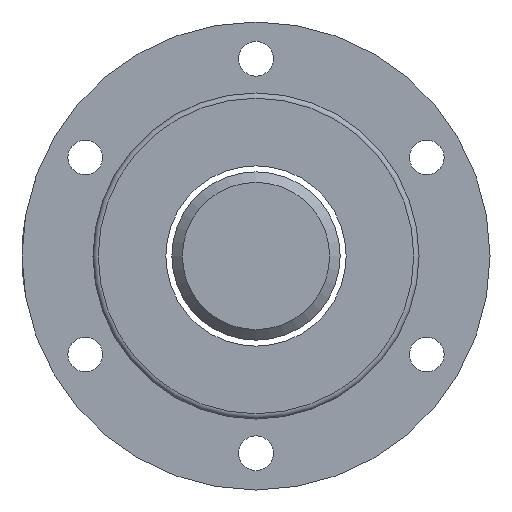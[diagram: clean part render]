
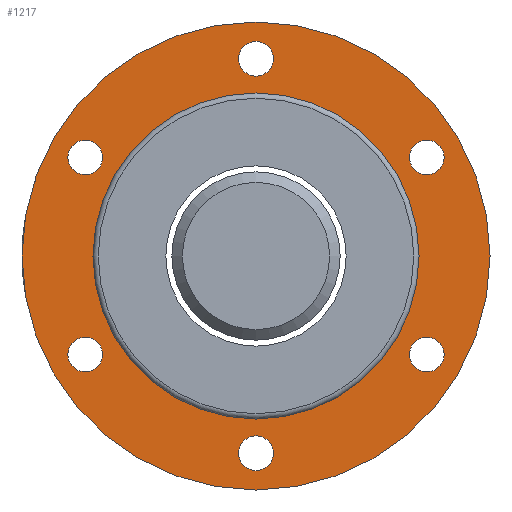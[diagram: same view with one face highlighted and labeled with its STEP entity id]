
A CAD part, left-side view. The second image highlights one B-rep face of the part: STEP entity #1217.
In plain terms, the highlighted planar face has unit normal (-1, 0, 0).
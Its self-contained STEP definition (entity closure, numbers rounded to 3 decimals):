
#21 = DIRECTION ( 'NONE',  ( 0., 0., 1. ) ) ;
#54 = CARTESIAN_POINT ( 'NONE',  ( 21.5, 0., -37.5 ) ) ;
#131 = EDGE_CURVE ( 'NONE', #1150, #1150, #379, .T. ) ;
#140 = AXIS2_PLACEMENT_3D ( 'NONE', #783, #1432, #2082 ) ;
#155 = EDGE_LOOP ( 'NONE', ( #1084 ) ) ;
#190 = CIRCLE ( 'NONE', #742, 3.3 ) ;
#222 = ORIENTED_EDGE ( 'NONE', *, *, #1392, .T. ) ;
#232 = ORIENTED_EDGE ( 'NONE', *, *, #866, .T. ) ;
#248 = CIRCLE ( 'NONE', #430, 3.3 ) ;
#257 = FACE_BOUND ( 'NONE', #1165, .T. ) ;
#276 = FACE_BOUND ( 'NONE', #1923, .T. ) ;
#307 = ORIENTED_EDGE ( 'NONE', *, *, #502, .F. ) ;
#325 = VERTEX_POINT ( 'NONE', #1655 ) ;
#351 = ORIENTED_EDGE ( 'NONE', *, *, #543, .T. ) ;
#379 = CIRCLE ( 'NONE', #1517, 3.3 ) ;
#383 = CARTESIAN_POINT ( 'NONE',  ( 21.5, 0., 40.8 ) ) ;
#395 = AXIS2_PLACEMENT_3D ( 'NONE', #869, #1475, #1649 ) ;
#427 = DIRECTION ( 'NONE',  ( 0., 0., -1. ) ) ;
#430 = AXIS2_PLACEMENT_3D ( 'NONE', #1303, #686, #2000 ) ;
#464 = FACE_BOUND ( 'NONE', #155, .T. ) ;
#480 = EDGE_LOOP ( 'NONE', ( #222 ) ) ;
#502 = EDGE_CURVE ( 'NONE', #325, #325, #1209, .T. ) ;
#542 = CARTESIAN_POINT ( 'NONE',  ( 21.5, 35.334, 20.4 ) ) ;
#543 = EDGE_CURVE ( 'NONE', #1317, #1317, #1605, .T. ) ;
#546 = DIRECTION ( 'NONE',  ( 0., -0.866, 0.5 ) ) ;
#552 = CARTESIAN_POINT ( 'NONE',  ( 21.5, 0., -44.5 ) ) ;
#570 = CARTESIAN_POINT ( 'NONE',  ( 21.5, 0., 0. ) ) ;
#591 = CIRCLE ( 'NONE', #140, 3.3 ) ;
#670 = CIRCLE ( 'NONE', #1866, 3.3 ) ;
#686 = DIRECTION ( 'NONE',  ( 1., 0., 0. ) ) ;
#699 = CARTESIAN_POINT ( 'NONE',  ( 21.5, 0., -40.8 ) ) ;
#718 = DIRECTION ( 'NONE',  ( 1., 0., 0. ) ) ;
#725 = VERTEX_POINT ( 'NONE', #383 ) ;
#733 = DIRECTION ( 'NONE',  ( 1., 0., 0. ) ) ;
#742 = AXIS2_PLACEMENT_3D ( 'NONE', #756, #1870, #546 ) ;
#744 = CARTESIAN_POINT ( 'NONE',  ( 21.5, 0., 37.5 ) ) ;
#756 = CARTESIAN_POINT ( 'NONE',  ( 21.5, -32.476, 18.75 ) ) ;
#781 = AXIS2_PLACEMENT_3D ( 'NONE', #1001, #1145, #21 ) ;
#783 = CARTESIAN_POINT ( 'NONE',  ( 21.5, -32.476, -18.75 ) ) ;
#829 = ORIENTED_EDGE ( 'NONE', *, *, #1845, .F. ) ;
#866 = EDGE_CURVE ( 'NONE', #1539, #1539, #190, .T. ) ;
#869 = CARTESIAN_POINT ( 'NONE',  ( 21.5, 32.476, -18.75 ) ) ;
#889 = CARTESIAN_POINT ( 'NONE',  ( 21.5, -35.334, 20.4 ) ) ;
#985 = EDGE_CURVE ( 'NONE', #725, #725, #670, .T. ) ;
#1001 = CARTESIAN_POINT ( 'NONE',  ( 21.5, 0., 0. ) ) ;
#1004 = AXIS2_PLACEMENT_3D ( 'NONE', #570, #1109, #427 ) ;
#1059 = VERTEX_POINT ( 'NONE', #542 ) ;
#1071 = VERTEX_POINT ( 'NONE', #552 ) ;
#1084 = ORIENTED_EDGE ( 'NONE', *, *, #131, .T. ) ;
#1109 = DIRECTION ( 'NONE',  ( 1., 0., 0. ) ) ;
#1134 = DIRECTION ( 'NONE',  ( 0., 0., -1. ) ) ;
#1145 = DIRECTION ( 'NONE',  ( -1., 0., 0. ) ) ;
#1150 = VERTEX_POINT ( 'NONE', #699 ) ;
#1165 = EDGE_LOOP ( 'NONE', ( #1638 ) ) ;
#1209 = CIRCLE ( 'NONE', #781, 31. ) ;
#1217 = ADVANCED_FACE ( 'NONE', ( #1608, #1751, #464, #1232, #276, #1729, #257, #1442 ), #1760, .F. ) ;
#1232 = FACE_OUTER_BOUND ( 'NONE', #1761, .T. ) ;
#1237 = EDGE_LOOP ( 'NONE', ( #1374 ) ) ;
#1241 = DIRECTION ( 'NONE',  ( 1., 0., 0. ) ) ;
#1277 = EDGE_LOOP ( 'NONE', ( #232 ) ) ;
#1303 = CARTESIAN_POINT ( 'NONE',  ( 21.5, 32.476, 18.75 ) ) ;
#1317 = VERTEX_POINT ( 'NONE', #1681 ) ;
#1374 = ORIENTED_EDGE ( 'NONE', *, *, #1965, .T. ) ;
#1392 = EDGE_CURVE ( 'NONE', #1059, #1059, #248, .T. ) ;
#1425 = AXIS2_PLACEMENT_3D ( 'NONE', #2092, #1241, #1900 ) ;
#1432 = DIRECTION ( 'NONE',  ( 1., 0., 0. ) ) ;
#1442 = FACE_BOUND ( 'NONE', #1735, .T. ) ;
#1453 = CIRCLE ( 'NONE', #1004, 44.5 ) ;
#1475 = DIRECTION ( 'NONE',  ( 1., 0., 0. ) ) ;
#1517 = AXIS2_PLACEMENT_3D ( 'NONE', #54, #718, #1134 ) ;
#1527 = VERTEX_POINT ( 'NONE', #1559 ) ;
#1534 = DIRECTION ( 'NONE',  ( 0., 0., 1. ) ) ;
#1539 = VERTEX_POINT ( 'NONE', #889 ) ;
#1559 = CARTESIAN_POINT ( 'NONE',  ( 21.5, -35.334, -20.4 ) ) ;
#1605 = CIRCLE ( 'NONE', #395, 3.3 ) ;
#1608 = FACE_BOUND ( 'NONE', #480, .T. ) ;
#1638 = ORIENTED_EDGE ( 'NONE', *, *, #985, .T. ) ;
#1649 = DIRECTION ( 'NONE',  ( 0., 0.866, -0.5 ) ) ;
#1655 = CARTESIAN_POINT ( 'NONE',  ( 21.5, 0., 31. ) ) ;
#1681 = CARTESIAN_POINT ( 'NONE',  ( 21.5, 35.334, -20.4 ) ) ;
#1729 = FACE_BOUND ( 'NONE', #1237, .T. ) ;
#1735 = EDGE_LOOP ( 'NONE', ( #351 ) ) ;
#1751 = FACE_BOUND ( 'NONE', #1277, .T. ) ;
#1760 = PLANE ( 'NONE',  #1425 ) ;
#1761 = EDGE_LOOP ( 'NONE', ( #829 ) ) ;
#1845 = EDGE_CURVE ( 'NONE', #1071, #1071, #1453, .T. ) ;
#1866 = AXIS2_PLACEMENT_3D ( 'NONE', #744, #733, #1534 ) ;
#1870 = DIRECTION ( 'NONE',  ( 1., 0., 0. ) ) ;
#1900 = DIRECTION ( 'NONE',  ( 0., 1., 0. ) ) ;
#1923 = EDGE_LOOP ( 'NONE', ( #307 ) ) ;
#1965 = EDGE_CURVE ( 'NONE', #1527, #1527, #591, .T. ) ;
#2000 = DIRECTION ( 'NONE',  ( 0., 0.866, 0.5 ) ) ;
#2082 = DIRECTION ( 'NONE',  ( 0., -0.866, -0.5 ) ) ;
#2092 = CARTESIAN_POINT ( 'NONE',  ( 21.5, 49., 0. ) ) ;
